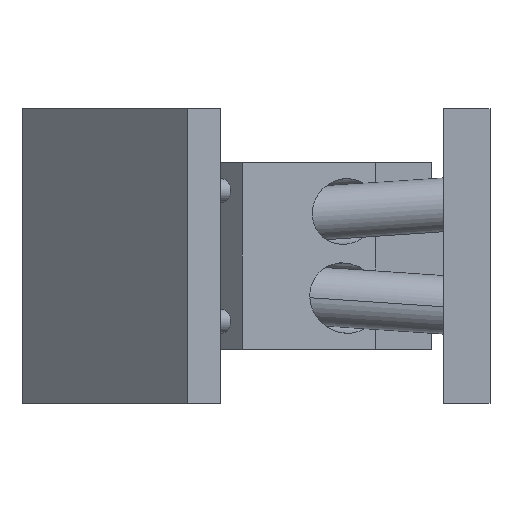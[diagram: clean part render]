
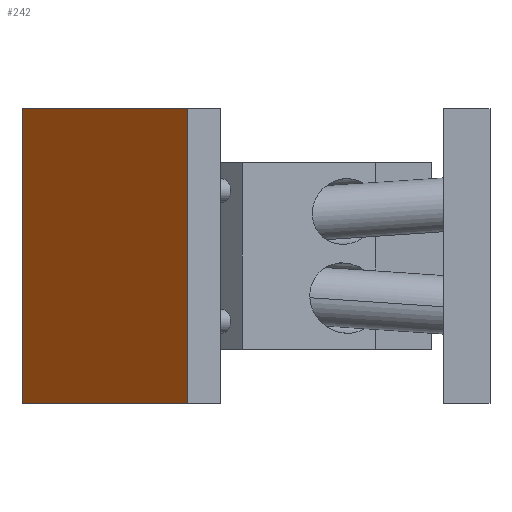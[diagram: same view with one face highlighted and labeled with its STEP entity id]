
A CAD part, front view. The second image highlights one B-rep face of the part: STEP entity #242.
In plain terms, the highlighted planar face has unit normal (-0.707, -0.707, 0).
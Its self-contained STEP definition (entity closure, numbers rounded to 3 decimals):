
#242=ADVANCED_FACE('',(#633),#634,.T.);
#633=FACE_OUTER_BOUND('',#1179,.T.);
#634=PLANE('',#1180);
#1179=EDGE_LOOP('',(#1874,#1875,#1876,#1877));
#1180=AXIS2_PLACEMENT_3D('',#1878,#1879,#1880);
#1874=ORIENTED_EDGE('',*,*,#3533,.T.);
#1875=ORIENTED_EDGE('',*,*,#3534,.F.);
#1876=ORIENTED_EDGE('',*,*,#3535,.T.);
#1877=ORIENTED_EDGE('',*,*,#3462,.T.);
#1878=CARTESIAN_POINT('',(71.043,-144.957,-20.0));
#1879=DIRECTION('',(-0.707,-0.707,0.));
#1880=DIRECTION('',(0.707,-0.707,0.));
#3462=EDGE_CURVE('',#4224,#4222,#4225,.T.);
#3533=EDGE_CURVE('',#4222,#4350,#4351,.T.);
#3534=EDGE_CURVE('',#4352,#4350,#4353,.T.);
#3535=EDGE_CURVE('',#4352,#4224,#4354,.T.);
#4222=VERTEX_POINT('',#5582);
#4224=VERTEX_POINT('',#5585);
#4225=LINE('',#5586,#5587);
#4350=VERTEX_POINT('',#5846);
#4351=LINE('',#5847,#5848);
#4352=VERTEX_POINT('',#5849);
#4353=LINE('',#5850,#5851);
#4354=LINE('',#5852,#5853);
#5582=CARTESIAN_POINT('',(106.398,-180.312,106.0));
#5585=CARTESIAN_POINT('',(106.398,-180.312,-20.0));
#5586=CARTESIAN_POINT('',(106.398,-180.312,-20.0));
#5587=VECTOR('',#8599,1.);
#5846=CARTESIAN_POINT('',(35.688,-109.602,106.0));
#5847=CARTESIAN_POINT('',(35.688,-109.602,106.0));
#5848=VECTOR('',#8704,1.);
#5849=CARTESIAN_POINT('',(35.688,-109.602,-20.0));
#5850=CARTESIAN_POINT('',(35.688,-109.602,-20.0));
#5851=VECTOR('',#8705,1.);
#5852=CARTESIAN_POINT('',(35.688,-109.602,-20.0));
#5853=VECTOR('',#8706,1.);
#8599=DIRECTION('',(0.,0.,1.0));
#8704=DIRECTION('',(-0.707,0.707,0.));
#8705=DIRECTION('',(0.,0.,1.0));
#8706=DIRECTION('',(0.707,-0.707,0.));
